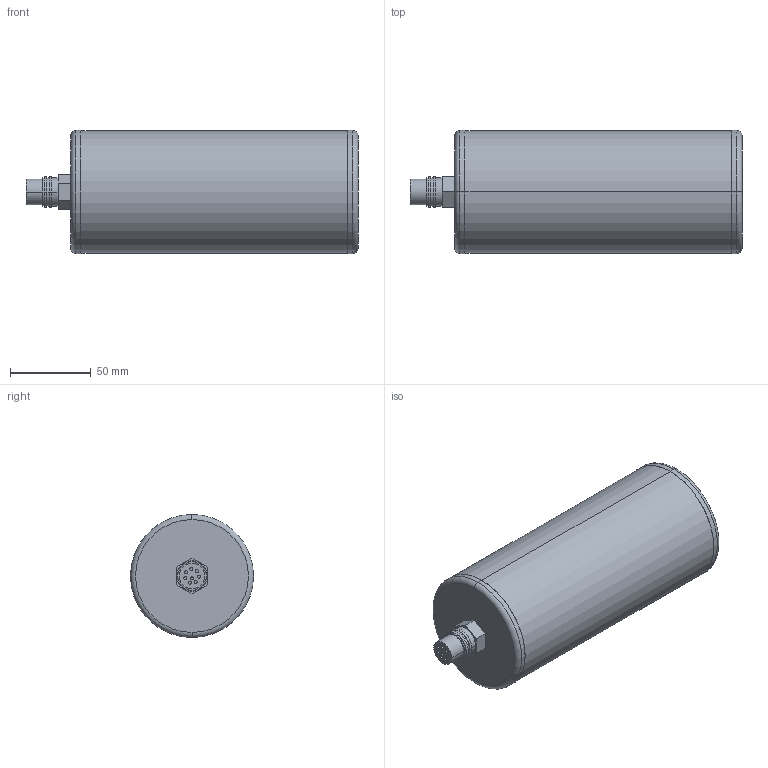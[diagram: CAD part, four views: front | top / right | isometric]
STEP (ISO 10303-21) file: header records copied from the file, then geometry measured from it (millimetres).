
FILE_DESCRIPTION (( 'STEP AP203' ), '1' );
FILE_NAME ('SeeStar_Battery_Module.STEP', '2016-02-18T01:38:14', ( 'delete' ), ( 'Hewlett-Packard Company' ), 'SwSTEP 2.0', 'SolidWorks 2015', '' );
FILE_SCHEMA (( 'CONFIG_CONTROL_DESIGN' ));
Length unit declared in the file: inch
Products named in the file (9): SeeStar_Battery_Module; Battery_Housing_Body_SSB-MB_Battery Housing; Light_Housing_Endcap_SSL-EC716_Connector hole; Battery_Housing_Endcap_SSB-EC; Subconn_MCBH8F; SeeStar_12-Cell_Battery; o-ring-014_AS568 - 014; o-ring-146_Stretched; Terminal_Strip_4Pin
Assembly tree (9 placements, depth 2):
  SeeStar_Battery_Module
    Battery_Housing_Body_SSB-MB_Battery Housing
    Light_Housing_Endcap_SSL-EC716_Connector hole
    Battery_Housing_Endcap_SSB-EC
    Subconn_MCBH8F
    SeeStar_12-Cell_Battery
    o-ring-014_AS568 - 014
    o-ring-146_Stretched  x2
    Terminal_Strip_4Pin
Bounding box: 205.48 x 76.2 x 76.2 mm (x, y, z)
Volume: 542184.7 mm3; surface area: 158736.7 mm2
Topology: 14 solids, 14 shells, 151 faces, 290 edges, 188 vertices
Faces by surface type: cylinder 76, plane 59, torus 16
Entity records: 4811 total; most frequent: DIRECTION 776, CARTESIAN_POINT 625, ORIENTED_EDGE 564, AXIS2_PLACEMENT_3D 335, EDGE_CURVE 282, VERTEX_POINT 184, EDGE_LOOP 178, CIRCLE 176
